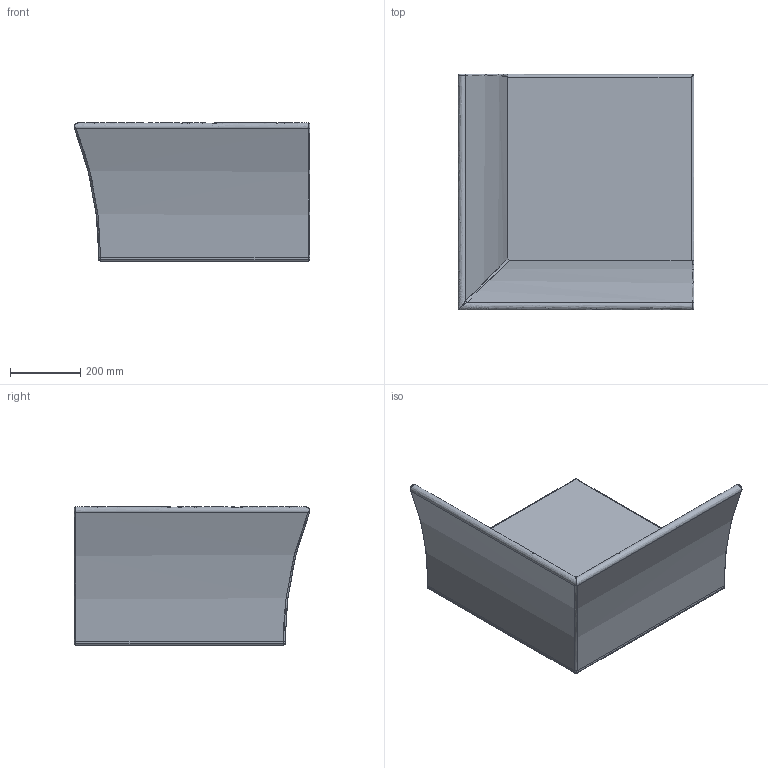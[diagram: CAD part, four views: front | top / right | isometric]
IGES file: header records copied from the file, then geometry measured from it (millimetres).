
Global section: file name: C:\Users\alberto.volpato\Desktop\Files\SCOCCAA.igs; native system: Rhinoceros ( Mar  9 2011 ); preprocessor: Trout Lake IGES 012 Mar  9 2011; date: 160505.081556; units: millimetre
Bounding box: 670.36 x 670.36 x 392.83 mm (x, y, z)
Surface area: 1752591.5 mm2 (no closed solid volume)
Topology: 0 solids, 0 shells, 49 faces, 272 edges, 267 vertices
Faces by surface type: bspline 49
